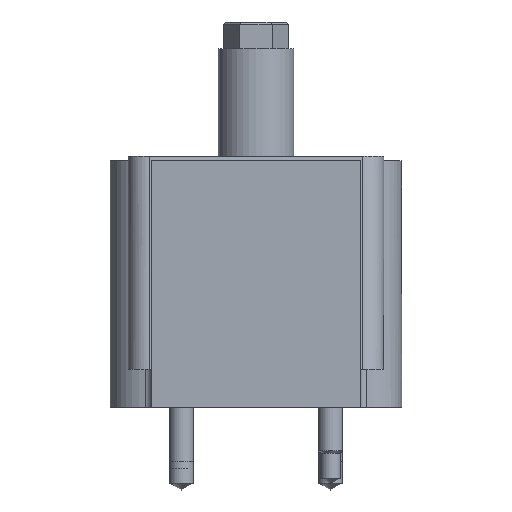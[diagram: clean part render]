
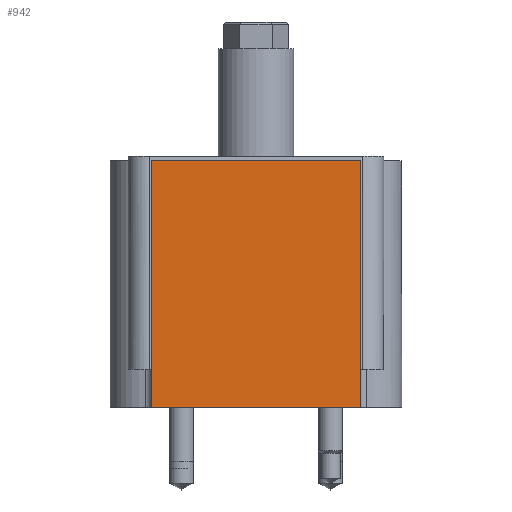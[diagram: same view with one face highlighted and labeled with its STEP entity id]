
A CAD part, left-side view. The second image highlights one B-rep face of the part: STEP entity #942.
In plain terms, the highlighted planar face has unit normal (-1, 0, 0).
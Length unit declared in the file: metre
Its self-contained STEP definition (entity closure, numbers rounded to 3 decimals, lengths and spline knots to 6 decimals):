
#942=ADVANCED_FACE('',(#1998),#1999,.T.);
#1998=FACE_OUTER_BOUND('',#3744,.T.);
#1999=PLANE('',#3745);
#3744=EDGE_LOOP('',(#13905,#13906,#13907,#13908));
#3745=AXIS2_PLACEMENT_3D('',#13909,#13910,#13911);
#13905=ORIENTED_EDGE('',*,*,#15697,.F.);
#13906=ORIENTED_EDGE('',*,*,#15668,.T.);
#13907=ORIENTED_EDGE('',*,*,#15658,.F.);
#13908=ORIENTED_EDGE('',*,*,#15641,.T.);
#13909=CARTESIAN_POINT('',(-0.084201,0.0,0.0));
#13910=DIRECTION('',(-1.0,0.0,0.0));
#13911=DIRECTION('',(0.0,0.0,1.0));
#15641=EDGE_CURVE('',#16512,#16510,#16513,.T.);
#15658=EDGE_CURVE('',#16512,#16538,#16539,.F.);
#15668=EDGE_CURVE('',#16550,#16538,#16551,.T.);
#15697=EDGE_CURVE('',#16550,#16510,#16589,.F.);
#16510=VERTEX_POINT('',#17711);
#16512=VERTEX_POINT('',#17714);
#16513=LINE('',#17715,#17716);
#16538=VERTEX_POINT('',#17748);
#16539=LINE('',#17749,#17750);
#16550=VERTEX_POINT('',#17764);
#16551=LINE('',#17765,#17766);
#16589=LINE('',#17810,#17811);
#17711=CARTESIAN_POINT('',(-0.084201,0.034988,0.08255));
#17714=CARTESIAN_POINT('',(-0.084201,-0.034988,0.08255));
#17715=CARTESIAN_POINT('',(-0.084201,0.0,0.08255));
#17716=VECTOR('',#21092,1.0);
#17748=CARTESIAN_POINT('',(-0.084201,-0.034988,0.0));
#17749=CARTESIAN_POINT('',(-0.084201,-0.034988,0.0));
#17750=VECTOR('',#21115,1.0);
#17764=CARTESIAN_POINT('',(-0.084201,0.034988,0.0));
#17765=CARTESIAN_POINT('',(-0.084201,0.0,0.0));
#17766=VECTOR('',#21125,1.0);
#17810=CARTESIAN_POINT('',(-0.084201,0.034988,0.0));
#17811=VECTOR('',#21162,1.0);
#21092=DIRECTION('',(0.0,1.0,0.0));
#21115=DIRECTION('',(0.0,0.0,1.0));
#21125=DIRECTION('',(-0.0,-1.0,-0.0));
#21162=DIRECTION('',(0.0,0.0,-1.0));
